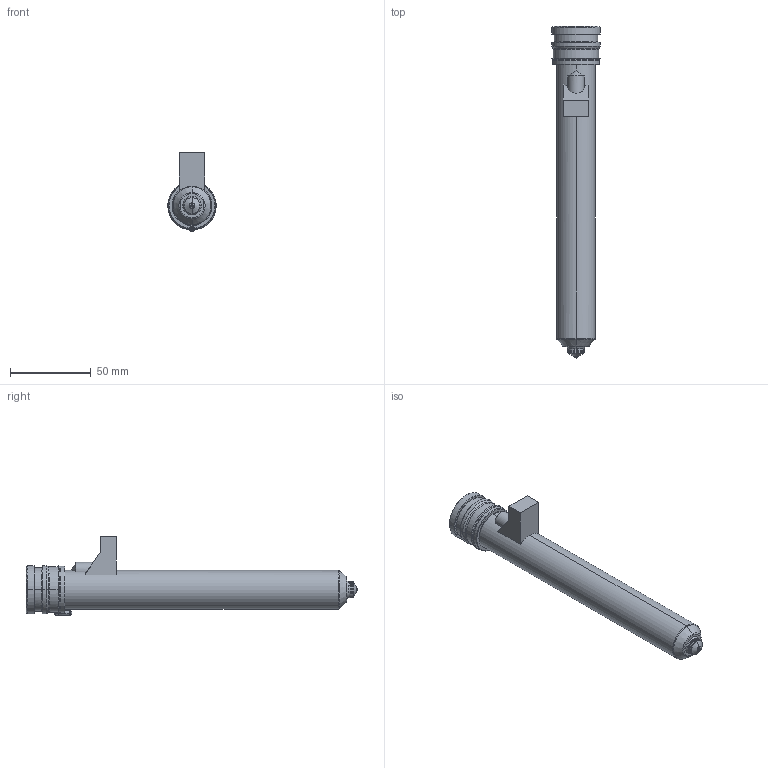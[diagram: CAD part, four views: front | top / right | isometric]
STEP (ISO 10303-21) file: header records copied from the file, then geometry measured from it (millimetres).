
FILE_DESCRIPTION((''),'2;1');
FILE_NAME('MPN-10-29-VSA10-186-M','2026-02-05T13:01:44',('UPTIO'),('Thermoplay S.p.A.'),'CREO PARAMETRIC BY PTC INC, 2023494','CREO PARAMETRIC BY PTC INC, 2023494','');
FILE_SCHEMA(('CONFIG_CONTROL_DESIGN','SHAPE_APPEARANCE_LAYERS_GROUPS'));
Length unit declared in the file: millimetre
Products named in the file (1): MPN-10-29-VSA10-186-M
Bounding box: 30 x 206 x 49 mm (x, y, z)
Volume: 64016.9 mm3; surface area: 65836.4 mm2
Topology: 3 solids, 5 shells, 546 faces, 1379 edges, 839 vertices
Faces by surface type: cylinder 181, plane 145, bspline 71, torus 69, cone 68, sphere 8, extrusion 4
Entity records: 28646 total; most frequent: CARTESIAN_POINT 12782, ORIENTED_EDGE 2744, DIRECTION 2618, EDGE_CURVE 1372, AXIS2_PLACEMENT_3D 1038, VERTEX_POINT 839, EDGE_LOOP 575, CIRCLE 566
